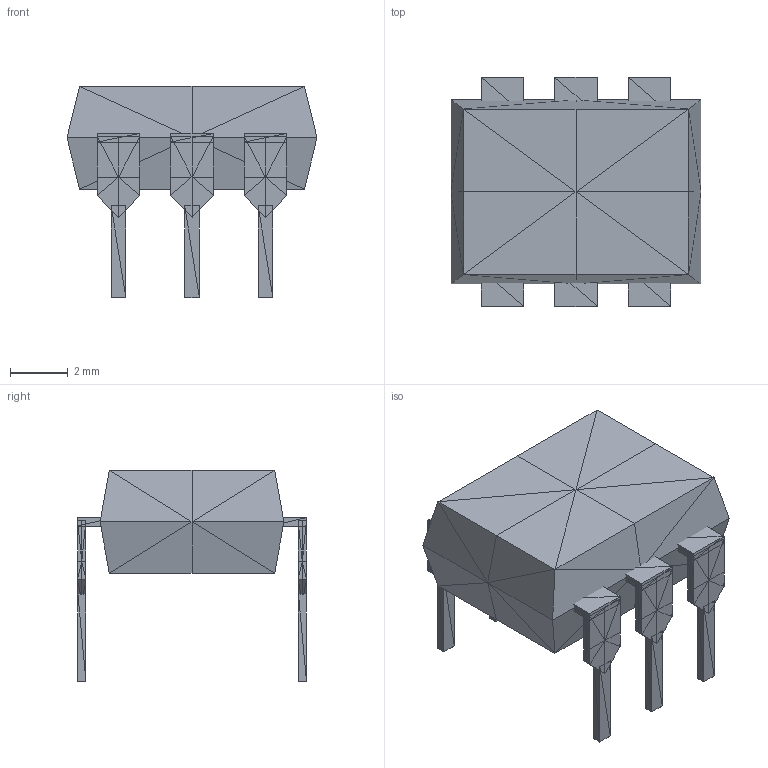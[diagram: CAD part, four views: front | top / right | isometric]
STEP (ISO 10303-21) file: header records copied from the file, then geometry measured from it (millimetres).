
FILE_DESCRIPTION(('HOOPS Exchange Step'),'2;1');
FILE_NAME('***.stp');
FILE_SCHEMA( ('AP242_MANAGED_MODEL_BASED_3D_ENGINEERING_MIM_LF {1 0 10303 442 1 1 4 }') );
Length unit declared in the file: inch
Products named in the file (20): DIP-6_2; DIP-6_3; DIP-6_4; DIP-6_5; DIP-6_6; DIP-6_7; DIP-6_8; DIP-6_9; DIP-6_10; DIP-6_11; DIP-6_12; DIP-6_13; DIP-6_14; DIP-6_15; DIP-6_16; DIP-6_17; DIP-6_18; DIP-6_19; DIP-6_20; DIP-6
Assembly tree (19 placements, depth 2):
  DIP-6
    DIP-6_2
    DIP-6_3
    DIP-6_4
    DIP-6_5
    DIP-6_6
    DIP-6_7
    DIP-6_8
    DIP-6_9
    DIP-6_10
    DIP-6_11
    DIP-6_12
    DIP-6_13
    DIP-6_14
    DIP-6_15
    DIP-6_16
    DIP-6_17
    DIP-6_18
    DIP-6_19
    DIP-6_20
Bounding box: 8.64 x 7.91 x 7.3 mm (x, y, z)
Volume: 188.5 mm3; surface area: 312.6 mm2
Topology: 19 solids, 19 shells, 480 faces, 720 edges, 278 vertices
Faces by surface type: plane 480
Entity records: 10276 total; most frequent: DIRECTION 1760, CARTESIAN_POINT 1518, ORIENTED_EDGE 1440, VECTOR 720, LINE 720, EDGE_CURVE 720, AXIS2_PLACEMENT_3D 520, PLANE 480
